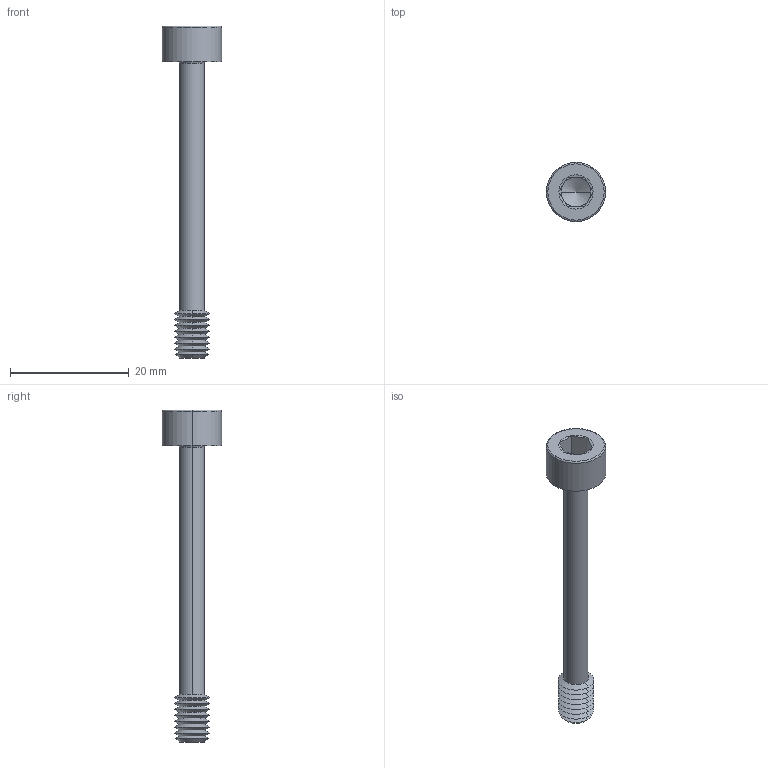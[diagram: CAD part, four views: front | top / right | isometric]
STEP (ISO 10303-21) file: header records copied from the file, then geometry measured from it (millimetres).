
FILE_DESCRIPTION (( 'STEP AP203' ), '1' );
FILE_NAME ('P0154.060-050-BL.step', '2024-06-17T11:30:02', ( '' ), ( '' ), 'SwSTEP 2.0', 'SolidWorks 2019', '' );
FILE_SCHEMA (( 'CONFIG_CONTROL_DESIGN' ));
Length unit declared in the file: millimetre
Products named in the file (1): P0154.060-050-BL
Bounding box: 10 x 10 x 56 mm (x, y, z)
Volume: 1100.3 mm3; surface area: 1235.3 mm2
Topology: 1 solids, 1 shells, 63 faces, 128 edges, 67 vertices
Faces by surface type: cone 40, plane 15, torus 4, cylinder 4
Entity records: 1687 total; most frequent: DIRECTION 312, CARTESIAN_POINT 283, ORIENTED_EDGE 252, AXIS2_PLACEMENT_3D 128, EDGE_CURVE 126, VERTEX_POINT 67, EDGE_LOOP 65, CIRCLE 64
